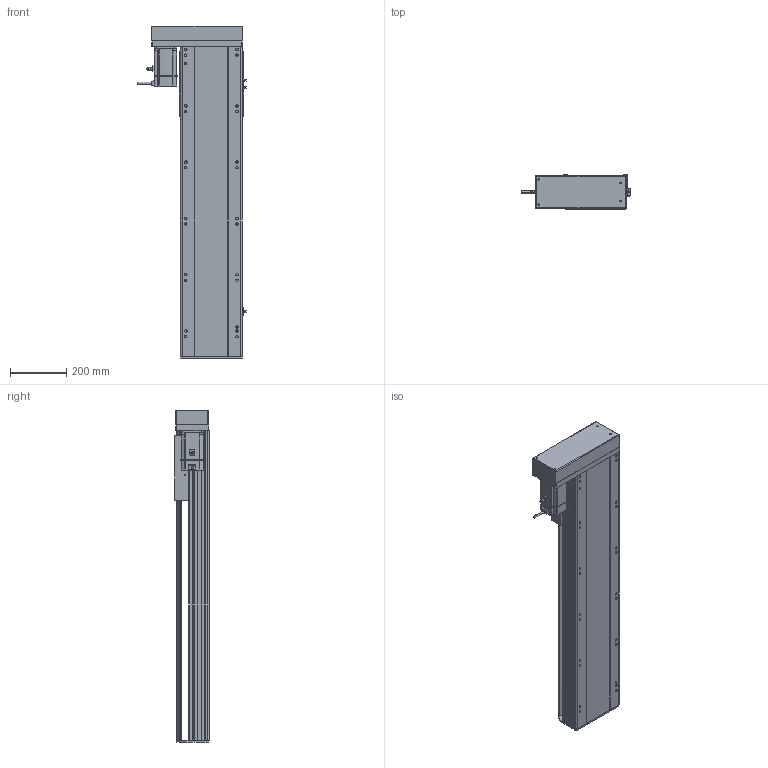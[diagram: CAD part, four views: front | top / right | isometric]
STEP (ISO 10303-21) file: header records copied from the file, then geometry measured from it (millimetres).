
FILE_DESCRIPTION (( 'STEP AP214' ), '1' );
FILE_NAME ('RTH22-XX-800-R-M75-C4.STEP', '2025-10-25T03:11:36', ( 'Microsoft' ), ( 'Microsoft' ), 'SwSTEP 2.0', 'SolidWorks 2018', '' );
FILE_SCHEMA (( 'AUTOMOTIVE_DESIGN' ));
Length unit declared in the file: millimetre
Products named in the file (10): N_RTH22-L-011菁釱^RTH22-XX-XX-R-M75-C4; N_RTH22-R-008-P75萇儂啣^RTH22-XX-XX-R-M75-C4; RTH22-XX-800-R-M75-C4; N_750W萇儂^RTH22-XX-XX-R-M75-C4; N_OMRON EE-SX672 传感器^RTH22-XX-XX-R-M75-C4; N_RTH22-L-018裔赽^RTH22-XX-XX-R-M75-C4; N_RTH22-L-007奻裔^RTH22-XX-XX-R-M75-C4; N_RTH22-GY-013外置感应片^RTH22-XX-XX-R-M75-C4; N_RTH22-L-004-SFS25賑釱^RTH22-XX-XX-R-M75-C4; N_RTH22-GY-001耜裔^RTH22-XX-XX-R-M75-C4
Assembly tree (11 placements, depth 2):
  RTH22-XX-800-R-M75-C4
    N_RTH22-L-011菁釱^RTH22-XX-XX-R-M75-C4
    N_RTH22-GY-001耜裔^RTH22-XX-XX-R-M75-C4
    N_750W萇儂^RTH22-XX-XX-R-M75-C4
    N_RTH22-R-008-P75萇儂啣^RTH22-XX-XX-R-M75-C4
    N_RTH22-L-007奻裔^RTH22-XX-XX-R-M75-C4
    N_OMRON EE-SX672 传感器^RTH22-XX-XX-R-M75-C4  x3
    N_RTH22-GY-013外置感应片^RTH22-XX-XX-R-M75-C4
    N_RTH22-L-004-SFS25賑釱^RTH22-XX-XX-R-M75-C4
    N_RTH22-L-018裔赽^RTH22-XX-XX-R-M75-C4
Bounding box: 384.7 x 122 x 1179.7 mm (x, y, z)
Volume: 16592293.8 mm3; surface area: 1882695.7 mm2
Topology: 11 solids, 11 shells, 1574 faces, 4297 edges, 2773 vertices
Faces by surface type: plane 791, cylinder 450, bspline 279, cone 54
Entity records: 39309 total; most frequent: CARTESIAN_POINT 12054, ORIENTED_EDGE 5578, DIRECTION 5235, EDGE_CURVE 2789, VERTEX_POINT 1809, AXIS2_PLACEMENT_3D 1750, LINE 1735, VECTOR 1735
